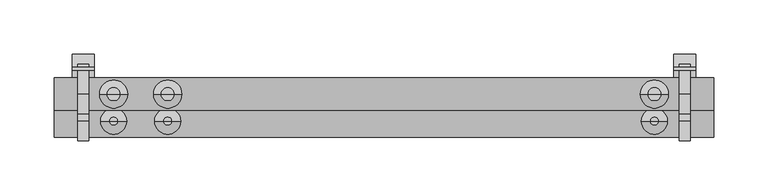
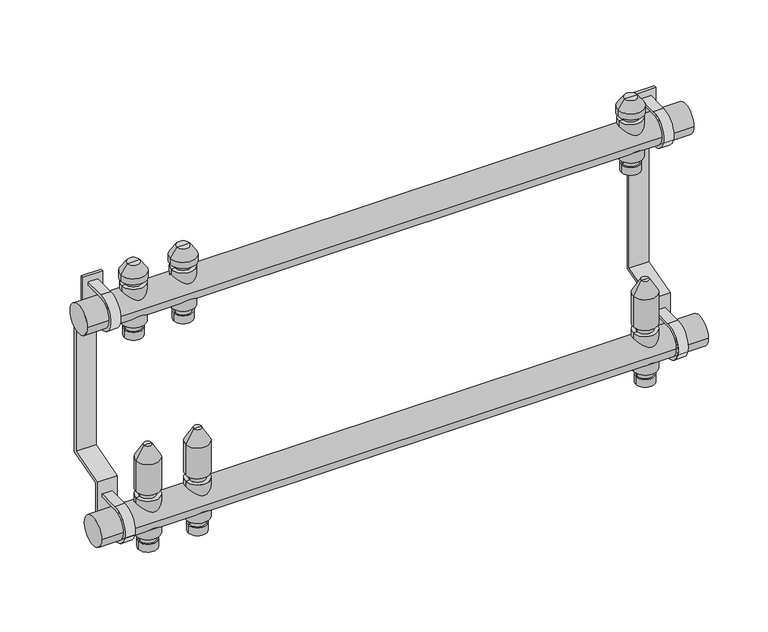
"""IFC4 building model written with IfcOpenShell, lengths in millimetres: valve geometry, PL CZ_Manifold_FT-VA : 11 circuits."""

from ifc_helpers import new_model, si_unit, point, frame, frame_2d, origin, origin_2d, place, context, project, spatial, polyline, circle_curve, trimmed, segment, composite_curve, outline, extrude, source, transform, mapped, element, save
from ifc_brep_helpers import plane_surface, cylinder_surface, revolved_surface, advanced_brep


def valve_5ebee82e(model_context):
    return source(origin(), model_context, "Body", "SolidModel", [
        advanced_brep(
        [(78.5, 0.0, -35.11267), (97.5, 0.0, -35.11267), (88.0, 0.0, -35.11267), (78.5, 0.0, -27.0369646), (97.5, 0.0, -27.0369646), (80.0, 0.0, -27.0369646), (96.0, 0.0, -27.0369646), (80.0, 0.0, -20.330253), (96.0, 0.0, -20.330253), (76.0, 0.0, -20.330253), (100.0, 0.0, -20.330253), (76.0, 0.0, 20.330253), (100.0, 0.0, 20.330253), (80.0, 0.0, 20.330253), (96.0, 0.0, 20.330253), (80.0, 0.0, 27.0474786), (96.0, 0.0, 27.0474786), (76.0, 0.0, 27.0474786), (100.0, 0.0, 27.0474786), (76.0, 0.0, 59.4084325), (100.0, 0.0, 59.4084325), (84.0, 0.0, 73.264839), (92.0, 0.0, 73.264839), (88.0, 0.0, 73.264839)],
        [
            (0, 1, circle_curve(frame((88.0, 0.0, -35.11267), z_axis=(0.0, 0.0, -1.0), x_axis=(1.0, 0.0, 0.0)), 9.5)),
            (1, 2),
            (2, 0),
            (1, 0, circle_curve(frame((88.0, 0.0, -35.11267), z_axis=(0.0, 0.0, -1.0), x_axis=(1.0, 0.0, 0.0)), 9.5)),
            (3, 4, circle_curve(frame((88.0, 0.0, -27.0369646), z_axis=(0.0, 0.0, -1.0), x_axis=(1.0, 0.0, 0.0)), 9.5)),
            (4, 1),
            (0, 3),
            (4, 3, circle_curve(frame((88.0, 0.0, -27.0369646), z_axis=(0.0, 0.0, -1.0), x_axis=(1.0, 0.0, 0.0)), 9.5)),
            (5, 6, circle_curve(frame((88.0, 0.0, -27.0369646), z_axis=(0.0, 0.0, -1.0), x_axis=(1.0, 0.0, 0.0)), 8.0)),
            (6, 4),
            (3, 5),
            (6, 5, circle_curve(frame((88.0, 0.0, -27.0369646), z_axis=(0.0, 0.0, -1.0), x_axis=(1.0, 0.0, 0.0)), 8.0)),
            (7, 8, circle_curve(frame((88.0, 0.0, -20.330253), z_axis=(0.0, 0.0, -1.0), x_axis=(1.0, 0.0, 0.0)), 8.0)),
            (8, 6),
            (5, 7),
            (8, 7, circle_curve(frame((88.0, 0.0, -20.330253), z_axis=(0.0, 0.0, -1.0), x_axis=(1.0, 0.0, 0.0)), 8.0)),
            (9, 10, circle_curve(frame((88.0, 0.0, -20.330253), z_axis=(0.0, 0.0, -1.0), x_axis=(1.0, 0.0, 0.0)), 12.0)),
            (10, 8),
            (7, 9),
            (10, 9, circle_curve(frame((88.0, 0.0, -20.330253), z_axis=(0.0, 0.0, -1.0), x_axis=(1.0, 0.0, 0.0)), 12.0)),
            (11, 12, circle_curve(frame((88.0, 0.0, 20.330253), z_axis=(0.0, 0.0, -1.0), x_axis=(1.0, 0.0, 0.0)), 12.0)),
            (12, 10),
            (9, 11),
            (12, 11, circle_curve(frame((88.0, 0.0, 20.330253), z_axis=(0.0, 0.0, -1.0), x_axis=(1.0, 0.0, 0.0)), 12.0)),
            (13, 14, circle_curve(frame((88.0, 0.0, 20.330253), z_axis=(0.0, 0.0, -1.0), x_axis=(1.0, 0.0, 0.0)), 8.0)),
            (14, 12),
            (11, 13),
            (14, 13, circle_curve(frame((88.0, 0.0, 20.330253), z_axis=(0.0, 0.0, -1.0), x_axis=(1.0, 0.0, 0.0)), 8.0)),
            (15, 16, circle_curve(frame((88.0, 0.0, 27.0474786), z_axis=(0.0, 0.0, -1.0), x_axis=(1.0, 0.0, 0.0)), 8.0)),
            (16, 14),
            (13, 15),
            (16, 15, circle_curve(frame((88.0, 0.0, 27.0474786), z_axis=(0.0, 0.0, -1.0), x_axis=(1.0, 0.0, 0.0)), 8.0)),
            (17, 18, circle_curve(frame((88.0, 0.0, 27.0474786), z_axis=(0.0, 0.0, -1.0), x_axis=(1.0, 0.0, 0.0)), 12.0)),
            (18, 16),
            (15, 17),
            (18, 17, circle_curve(frame((88.0, 0.0, 27.0474786), z_axis=(0.0, 0.0, -1.0), x_axis=(1.0, 0.0, 0.0)), 12.0)),
            (19, 20, circle_curve(frame((88.0, 0.0, 59.4084325), z_axis=(0.0, 0.0, -1.0), x_axis=(1.0, 0.0, 0.0)), 12.0)),
            (20, 18),
            (17, 19),
            (20, 19, circle_curve(frame((88.0, 0.0, 59.4084325), z_axis=(0.0, 0.0, -1.0), x_axis=(1.0, 0.0, 0.0)), 12.0)),
            (21, 22, circle_curve(frame((88.0, 0.0, 73.264839), z_axis=(0.0, 0.0, -1.0), x_axis=(1.0, 0.0, 0.0)), 4.0)),
            (22, 20),
            (19, 21),
            (22, 21, circle_curve(frame((88.0, 0.0, 73.264839), z_axis=(0.0, 0.0, -1.0), x_axis=(1.0, 0.0, 0.0)), 4.0)),
            (23, 22),
            (21, 23),
        ],
        [
            plane_surface(frame((88.0, 0.0, -35.11267), z_axis=(0.0, 0.0, -1.0), x_axis=(1.0, 0.0, 0.0))),
            cylinder_surface(frame((88.0, 0.0, 58.264839), z_axis=(0.0, 0.0, 1.0), x_axis=(1.0, 0.0, 0.0)), 9.5),
            plane_surface(frame((88.0, 0.0, -27.0369646), z_axis=(0.0, 0.0, 1.0), x_axis=(1.0, 0.0, 0.0))),
            cylinder_surface(frame((88.0, 0.0, 58.264839), z_axis=(0.0, 0.0, 1.0), x_axis=(1.0, 0.0, 0.0)), 8.0),
            plane_surface(frame((88.0, 0.0, -20.330253), z_axis=(0.0, 0.0, -1.0), x_axis=(1.0, 0.0, 0.0))),
            cylinder_surface(frame((88.0, 0.0, 58.264839), z_axis=(0.0, 0.0, 1.0), x_axis=(1.0, 0.0, 0.0)), 12.0),
            plane_surface(frame((88.0, 0.0, 20.330253), z_axis=(0.0, 0.0, 1.0), x_axis=(1.0, 0.0, 0.0))),
            plane_surface(frame((88.0, 0.0, 27.0474786), z_axis=(0.0, 0.0, -1.0), x_axis=(1.0, 0.0, 0.0))),
            revolved_surface(polyline([(100.0, 0.0, 59.4084325), (92.0, 0.0, 73.264839)]), (88.0, 0.0, 58.264839), (0.0, 0.0, 1.0)),
            plane_surface(frame((88.0, 0.0, 73.264839), z_axis=(0.0, 0.0, 1.0), x_axis=(1.0, 0.0, 0.0))),
        ],
        [
            (0, [[1, 2, 3]]),
            (0, [[4, -3, -2]]),
            (1, [[5, 6, -1, 7]]),
            (1, [[8, -7, -4, -6]]),
            (2, [[9, 10, -5, 11]]),
            (2, [[12, -11, -8, -10]]),
            (3, [[13, 14, -9, 15]]),
            (3, [[16, -15, -12, -14]]),
            (4, [[17, 18, -13, 19]]),
            (4, [[20, -19, -16, -18]]),
            (5, [[21, 22, -17, 23]]),
            (5, [[24, -23, -20, -22]]),
            (6, [[25, 26, -21, 27]]),
            (6, [[28, -27, -24, -26]]),
            (3, [[29, 30, -25, 31]]),
            (3, [[32, -31, -28, -30]]),
            (7, [[33, 34, -29, 35]]),
            (7, [[36, -35, -32, -34]]),
            (5, [[37, 38, -33, 39]]),
            (5, [[40, -39, -36, -38]]),
            (8, [[41, 42, -37, 43]]),
            (8, [[44, -43, -40, -42]]),
            (9, [[45, -41, 46]]),
            (9, [[-46, -44, -45]]),
        ],
    ),
        advanced_brep(
        [(78.5, 25.0, 174.88733), (97.5, 25.0, 174.88733), (88.0, 25.0, 174.88733), (78.5, 25.0, 182.9630354), (97.5, 25.0, 182.9630354), (80.0, 25.0, 182.9630354), (96.0, 25.0, 182.9630354), (80.0, 25.0, 189.669747), (96.0, 25.0, 189.669747), (76.0, 25.0, 189.669747), (100.0, 25.0, 189.669747), (76.0, 25.0, 230.330253), (100.0, 25.0, 230.330253), (80.0, 25.0, 230.330253), (96.0, 25.0, 230.330253), (80.0, 25.0, 236.0474786), (96.0, 25.0, 236.0474786), (75.0, 25.0, 236.0474786), (101.0, 25.0, 236.0474786), (75.0, 25.0, 242.337955), (101.0, 25.0, 242.337955), (81.6551779, 25.0, 251.842534), (94.3448221, 25.0, 251.842534), (88.0, 25.0, 251.842534)],
        [
            (0, 1, circle_curve(frame((88.0, 25.0, 174.88733), z_axis=(0.0, 0.0, -1.0), x_axis=(1.0, 0.0, 0.0)), 9.5)),
            (1, 2),
            (2, 0),
            (1, 0, circle_curve(frame((88.0, 25.0, 174.88733), z_axis=(0.0, 0.0, -1.0), x_axis=(1.0, 0.0, 0.0)), 9.5)),
            (3, 4, circle_curve(frame((88.0, 25.0, 182.9630354), z_axis=(0.0, 0.0, -1.0), x_axis=(1.0, 0.0, 0.0)), 9.5)),
            (4, 1),
            (0, 3),
            (4, 3, circle_curve(frame((88.0, 25.0, 182.9630354), z_axis=(0.0, 0.0, -1.0), x_axis=(1.0, 0.0, 0.0)), 9.5)),
            (5, 6, circle_curve(frame((88.0, 25.0, 182.9630354), z_axis=(0.0, 0.0, -1.0), x_axis=(1.0, 0.0, 0.0)), 8.0)),
            (6, 4),
            (3, 5),
            (6, 5, circle_curve(frame((88.0, 25.0, 182.9630354), z_axis=(0.0, 0.0, -1.0), x_axis=(1.0, 0.0, 0.0)), 8.0)),
            (7, 8, circle_curve(frame((88.0, 25.0, 189.669747), z_axis=(0.0, 0.0, -1.0), x_axis=(1.0, 0.0, 0.0)), 8.0)),
            (8, 6),
            (5, 7),
            (8, 7, circle_curve(frame((88.0, 25.0, 189.669747), z_axis=(0.0, 0.0, -1.0), x_axis=(1.0, 0.0, 0.0)), 8.0)),
            (9, 10, circle_curve(frame((88.0, 25.0, 189.669747), z_axis=(0.0, 0.0, -1.0), x_axis=(1.0, 0.0, 0.0)), 12.0)),
            (10, 8),
            (7, 9),
            (10, 9, circle_curve(frame((88.0, 25.0, 189.669747), z_axis=(0.0, 0.0, -1.0), x_axis=(1.0, 0.0, 0.0)), 12.0)),
            (11, 12, circle_curve(frame((88.0, 25.0, 230.330253), z_axis=(0.0, 0.0, -1.0), x_axis=(1.0, 0.0, 0.0)), 12.0)),
            (12, 10),
            (9, 11),
            (12, 11, circle_curve(frame((88.0, 25.0, 230.330253), z_axis=(0.0, 0.0, -1.0), x_axis=(1.0, 0.0, 0.0)), 12.0)),
            (13, 14, circle_curve(frame((88.0, 25.0, 230.330253), z_axis=(0.0, 0.0, -1.0), x_axis=(1.0, 0.0, 0.0)), 8.0)),
            (14, 12),
            (11, 13),
            (14, 13, circle_curve(frame((88.0, 25.0, 230.330253), z_axis=(0.0, 0.0, -1.0), x_axis=(1.0, 0.0, 0.0)), 8.0)),
            (15, 16, circle_curve(frame((88.0, 25.0, 236.0474786), z_axis=(0.0, 0.0, -1.0), x_axis=(1.0, 0.0, 0.0)), 8.0)),
            (16, 14),
            (13, 15),
            (16, 15, circle_curve(frame((88.0, 25.0, 236.0474786), z_axis=(0.0, 0.0, -1.0), x_axis=(1.0, 0.0, 0.0)), 8.0)),
            (17, 18, circle_curve(frame((88.0, 25.0, 236.0474786), z_axis=(0.0, 0.0, -1.0), x_axis=(1.0, 0.0, 0.0)), 13.0)),
            (18, 16),
            (15, 17),
            (18, 17, circle_curve(frame((88.0, 25.0, 236.0474786), z_axis=(0.0, 0.0, -1.0), x_axis=(1.0, 0.0, 0.0)), 13.0)),
            (19, 20, circle_curve(frame((88.0, 25.0, 242.337955), z_axis=(0.0, 0.0, -1.0), x_axis=(1.0, 0.0, 0.0)), 13.0)),
            (20, 18),
            (17, 19),
            (20, 19, circle_curve(frame((88.0, 25.0, 242.337955), z_axis=(0.0, 0.0, -1.0), x_axis=(1.0, 0.0, 0.0)), 13.0)),
            (21, 22, circle_curve(frame((88.0, 25.0, 251.842534), z_axis=(0.0, 0.0, -1.0), x_axis=(1.0, 0.0, 0.0)), 6.3448221)),
            (22, 20),
            (19, 21),
            (22, 21, circle_curve(frame((88.0, 25.0, 251.842534), z_axis=(0.0, 0.0, -1.0), x_axis=(1.0, 0.0, 0.0)), 6.3448221)),
            (23, 22),
            (21, 23),
        ],
        [
            plane_surface(frame((88.0, 25.0, 174.88733), z_axis=(0.0, 0.0, -1.0), x_axis=(1.0, 0.0, 0.0))),
            cylinder_surface(frame((88.0, 25.0, 247.7026565), z_axis=(0.0, 0.0, 1.0), x_axis=(1.0, 0.0, 0.0)), 9.5),
            plane_surface(frame((88.0, 25.0, 182.9630354), z_axis=(0.0, 0.0, 1.0), x_axis=(1.0, 0.0, 0.0))),
            cylinder_surface(frame((88.0, 25.0, 247.7026565), z_axis=(0.0, 0.0, 1.0), x_axis=(1.0, 0.0, 0.0)), 8.0),
            plane_surface(frame((88.0, 25.0, 189.669747), z_axis=(0.0, 0.0, -1.0), x_axis=(1.0, 0.0, 0.0))),
            cylinder_surface(frame((88.0, 25.0, 247.7026565), z_axis=(0.0, 0.0, 1.0), x_axis=(1.0, 0.0, 0.0)), 12.0),
            plane_surface(frame((88.0, 25.0, 230.330253), z_axis=(0.0, 0.0, 1.0), x_axis=(1.0, 0.0, 0.0))),
            plane_surface(frame((88.0, 25.0, 236.0474786), z_axis=(0.0, 0.0, -1.0), x_axis=(1.0, 0.0, 0.0))),
            cylinder_surface(frame((88.0, 25.0, 247.7026565), z_axis=(0.0, 0.0, 1.0), x_axis=(1.0, 0.0, 0.0)), 13.0),
            revolved_surface(polyline([(101.0, 25.0, 242.337955), (94.3448221, 25.0, 251.842534)]), (88.0, 25.0, 247.7026565), (0.0, 0.0, 1.0)),
            plane_surface(frame((88.0, 25.0, 251.842534), z_axis=(0.0, 0.0, 1.0), x_axis=(1.0, 0.0, 0.0))),
        ],
        [
            (0, [[1, 2, 3]]),
            (0, [[4, -3, -2]]),
            (1, [[5, 6, -1, 7]]),
            (1, [[8, -7, -4, -6]]),
            (2, [[9, 10, -5, 11]]),
            (2, [[12, -11, -8, -10]]),
            (3, [[13, 14, -9, 15]]),
            (3, [[16, -15, -12, -14]]),
            (4, [[17, 18, -13, 19]]),
            (4, [[20, -19, -16, -18]]),
            (5, [[21, 22, -17, 23]]),
            (5, [[24, -23, -20, -22]]),
            (6, [[25, 26, -21, 27]]),
            (6, [[28, -27, -24, -26]]),
            (3, [[29, 30, -25, 31]]),
            (3, [[32, -31, -28, -30]]),
            (7, [[33, 34, -29, 35]]),
            (7, [[36, -35, -32, -34]]),
            (8, [[37, 38, -33, 39]]),
            (8, [[40, -39, -36, -38]]),
            (9, [[41, 42, -37, 43]]),
            (9, [[44, -43, -40, -42]]),
            (10, [[45, -41, 46]]),
            (10, [[-46, -44, -45]]),
        ],
    ),
        advanced_brep(
        [(528.5, 0.0, -35.11267), (547.5, 0.0, -35.11267), (538.0, 0.0, -35.11267), (528.5, 0.0, -27.0369646), (547.5, 0.0, -27.0369646), (530.0, 0.0, -27.0369646), (546.0, 0.0, -27.0369646), (530.0, 0.0, -20.330253), (546.0, 0.0, -20.330253), (526.0, 0.0, -20.330253), (550.0, 0.0, -20.330253), (526.0, 0.0, 20.330253), (550.0, 0.0, 20.330253), (530.0, 0.0, 20.330253), (546.0, 0.0, 20.330253), (530.0, 0.0, 27.0474786), (546.0, 0.0, 27.0474786), (526.0, 0.0, 27.0474786), (550.0, 0.0, 27.0474786), (526.0, 0.0, 59.4084325), (550.0, 0.0, 59.4084325), (534.0, 0.0, 73.264839), (542.0, 0.0, 73.264839), (538.0, 0.0, 73.264839)],
        [
            (0, 1, circle_curve(frame((538.0, 0.0, -35.11267), z_axis=(0.0, 0.0, -1.0), x_axis=(1.0, 0.0, 0.0)), 9.5)),
            (1, 2),
            (2, 0),
            (1, 0, circle_curve(frame((538.0, 0.0, -35.11267), z_axis=(0.0, 0.0, -1.0), x_axis=(1.0, 0.0, 0.0)), 9.5)),
            (3, 4, circle_curve(frame((538.0, 0.0, -27.0369646), z_axis=(0.0, 0.0, -1.0), x_axis=(1.0, 0.0, 0.0)), 9.5)),
            (4, 1),
            (0, 3),
            (4, 3, circle_curve(frame((538.0, 0.0, -27.0369646), z_axis=(0.0, 0.0, -1.0), x_axis=(1.0, 0.0, 0.0)), 9.5)),
            (5, 6, circle_curve(frame((538.0, 0.0, -27.0369646), z_axis=(0.0, 0.0, -1.0), x_axis=(1.0, 0.0, 0.0)), 8.0)),
            (6, 4),
            (3, 5),
            (6, 5, circle_curve(frame((538.0, 0.0, -27.0369646), z_axis=(0.0, 0.0, -1.0), x_axis=(1.0, 0.0, 0.0)), 8.0)),
            (7, 8, circle_curve(frame((538.0, 0.0, -20.330253), z_axis=(0.0, 0.0, -1.0), x_axis=(1.0, 0.0, 0.0)), 8.0)),
            (8, 6),
            (5, 7),
            (8, 7, circle_curve(frame((538.0, 0.0, -20.330253), z_axis=(0.0, 0.0, -1.0), x_axis=(1.0, 0.0, 0.0)), 8.0)),
            (9, 10, circle_curve(frame((538.0, 0.0, -20.330253), z_axis=(0.0, 0.0, -1.0), x_axis=(1.0, 0.0, 0.0)), 12.0)),
            (10, 8),
            (7, 9),
            (10, 9, circle_curve(frame((538.0, 0.0, -20.330253), z_axis=(0.0, 0.0, -1.0), x_axis=(1.0, 0.0, 0.0)), 12.0)),
            (11, 12, circle_curve(frame((538.0, 0.0, 20.330253), z_axis=(0.0, 0.0, -1.0), x_axis=(1.0, 0.0, 0.0)), 12.0)),
            (12, 10),
            (9, 11),
            (12, 11, circle_curve(frame((538.0, 0.0, 20.330253), z_axis=(0.0, 0.0, -1.0), x_axis=(1.0, 0.0, 0.0)), 12.0)),
            (13, 14, circle_curve(frame((538.0, 0.0, 20.330253), z_axis=(0.0, 0.0, -1.0), x_axis=(1.0, 0.0, 0.0)), 8.0)),
            (14, 12),
            (11, 13),
            (14, 13, circle_curve(frame((538.0, 0.0, 20.330253), z_axis=(0.0, 0.0, -1.0), x_axis=(1.0, 0.0, 0.0)), 8.0)),
            (15, 16, circle_curve(frame((538.0, 0.0, 27.0474786), z_axis=(0.0, 0.0, -1.0), x_axis=(1.0, 0.0, 0.0)), 8.0)),
            (16, 14),
            (13, 15),
            (16, 15, circle_curve(frame((538.0, 0.0, 27.0474786), z_axis=(0.0, 0.0, -1.0), x_axis=(1.0, 0.0, 0.0)), 8.0)),
            (17, 18, circle_curve(frame((538.0, 0.0, 27.0474786), z_axis=(0.0, 0.0, -1.0), x_axis=(1.0, 0.0, 0.0)), 12.0)),
            (18, 16),
            (15, 17),
            (18, 17, circle_curve(frame((538.0, 0.0, 27.0474786), z_axis=(0.0, 0.0, -1.0), x_axis=(1.0, 0.0, 0.0)), 12.0)),
            (19, 20, circle_curve(frame((538.0, 0.0, 59.4084325), z_axis=(0.0, 0.0, -1.0), x_axis=(1.0, 0.0, 0.0)), 12.0)),
            (20, 18),
            (17, 19),
            (20, 19, circle_curve(frame((538.0, 0.0, 59.4084325), z_axis=(0.0, 0.0, -1.0), x_axis=(1.0, 0.0, 0.0)), 12.0)),
            (21, 22, circle_curve(frame((538.0, 0.0, 73.264839), z_axis=(0.0, 0.0, -1.0), x_axis=(1.0, 0.0, 0.0)), 4.0)),
            (22, 20),
            (19, 21),
            (22, 21, circle_curve(frame((538.0, 0.0, 73.264839), z_axis=(0.0, 0.0, -1.0), x_axis=(1.0, 0.0, 0.0)), 4.0)),
            (23, 22),
            (21, 23),
        ],
        [
            plane_surface(frame((538.0, 0.0, -35.11267), z_axis=(0.0, 0.0, -1.0), x_axis=(1.0, 0.0, 0.0))),
            cylinder_surface(frame((538.0, 0.0, 58.264839), z_axis=(0.0, 0.0, 1.0), x_axis=(1.0, 0.0, 0.0)), 9.5),
            plane_surface(frame((538.0, 0.0, -27.0369646), z_axis=(0.0, 0.0, 1.0), x_axis=(1.0, 0.0, 0.0))),
            cylinder_surface(frame((538.0, 0.0, 58.264839), z_axis=(0.0, 0.0, 1.0), x_axis=(1.0, 0.0, 0.0)), 8.0),
            plane_surface(frame((538.0, 0.0, -20.330253), z_axis=(0.0, 0.0, -1.0), x_axis=(1.0, 0.0, 0.0))),
            cylinder_surface(frame((538.0, 0.0, 58.264839), z_axis=(0.0, 0.0, 1.0), x_axis=(1.0, 0.0, 0.0)), 12.0),
            plane_surface(frame((538.0, 0.0, 20.330253), z_axis=(0.0, 0.0, 1.0), x_axis=(1.0, 0.0, 0.0))),
            plane_surface(frame((538.0, 0.0, 27.0474786), z_axis=(0.0, 0.0, -1.0), x_axis=(1.0, 0.0, 0.0))),
            revolved_surface(polyline([(550.0, 0.0, 59.4084325), (542.0, 0.0, 73.264839)]), (538.0, 0.0, 58.264839), (0.0, 0.0, 1.0)),
            plane_surface(frame((538.0, 0.0, 73.264839), z_axis=(0.0, 0.0, 1.0), x_axis=(1.0, 0.0, 0.0))),
        ],
        [
            (0, [[1, 2, 3]]),
            (0, [[4, -3, -2]]),
            (1, [[5, 6, -1, 7]]),
            (1, [[8, -7, -4, -6]]),
            (2, [[9, 10, -5, 11]]),
            (2, [[12, -11, -8, -10]]),
            (3, [[13, 14, -9, 15]]),
            (3, [[16, -15, -12, -14]]),
            (4, [[17, 18, -13, 19]]),
            (4, [[20, -19, -16, -18]]),
            (5, [[21, 22, -17, 23]]),
            (5, [[24, -23, -20, -22]]),
            (6, [[25, 26, -21, 27]]),
            (6, [[28, -27, -24, -26]]),
            (3, [[29, 30, -25, 31]]),
            (3, [[32, -31, -28, -30]]),
            (7, [[33, 34, -29, 35]]),
            (7, [[36, -35, -32, -34]]),
            (5, [[37, 38, -33, 39]]),
            (5, [[40, -39, -36, -38]]),
            (8, [[41, 42, -37, 43]]),
            (8, [[44, -43, -40, -42]]),
            (9, [[45, -41, 46]]),
            (9, [[-46, -44, -45]]),
        ],
    ),
        advanced_brep(
        [(528.5, 25.0, 174.88733), (547.5, 25.0, 174.88733), (538.0, 25.0, 174.88733), (528.5, 25.0, 182.9630354), (547.5, 25.0, 182.9630354), (530.0, 25.0, 182.9630354), (546.0, 25.0, 182.9630354), (530.0, 25.0, 189.669747), (546.0, 25.0, 189.669747), (526.0, 25.0, 189.669747), (550.0, 25.0, 189.669747), (526.0, 25.0, 230.330253), (550.0, 25.0, 230.330253), (530.0, 25.0, 230.330253), (546.0, 25.0, 230.330253), (530.0, 25.0, 236.0474786), (546.0, 25.0, 236.0474786), (525.0, 25.0, 236.0474786), (551.0, 25.0, 236.0474786), (525.0, 25.0, 242.337955), (551.0, 25.0, 242.337955), (531.6551779, 25.0, 251.842534), (544.3448221, 25.0, 251.842534), (538.0, 25.0, 251.842534)],
        [
            (0, 1, circle_curve(frame((538.0, 25.0, 174.88733), z_axis=(0.0, 0.0, -1.0), x_axis=(1.0, 0.0, 0.0)), 9.5)),
            (1, 2),
            (2, 0),
            (1, 0, circle_curve(frame((538.0, 25.0, 174.88733), z_axis=(0.0, 0.0, -1.0), x_axis=(1.0, 0.0, 0.0)), 9.5)),
            (3, 4, circle_curve(frame((538.0, 25.0, 182.9630354), z_axis=(0.0, 0.0, -1.0), x_axis=(1.0, 0.0, 0.0)), 9.5)),
            (4, 1),
            (0, 3),
            (4, 3, circle_curve(frame((538.0, 25.0, 182.9630354), z_axis=(0.0, 0.0, -1.0), x_axis=(1.0, 0.0, 0.0)), 9.5)),
            (5, 6, circle_curve(frame((538.0, 25.0, 182.9630354), z_axis=(0.0, 0.0, -1.0), x_axis=(1.0, 0.0, 0.0)), 8.0)),
            (6, 4),
            (3, 5),
            (6, 5, circle_curve(frame((538.0, 25.0, 182.9630354), z_axis=(0.0, 0.0, -1.0), x_axis=(1.0, 0.0, 0.0)), 8.0)),
            (7, 8, circle_curve(frame((538.0, 25.0, 189.669747), z_axis=(0.0, 0.0, -1.0), x_axis=(1.0, 0.0, 0.0)), 8.0)),
            (8, 6),
            (5, 7),
            (8, 7, circle_curve(frame((538.0, 25.0, 189.669747), z_axis=(0.0, 0.0, -1.0), x_axis=(1.0, 0.0, 0.0)), 8.0)),
            (9, 10, circle_curve(frame((538.0, 25.0, 189.669747), z_axis=(0.0, 0.0, -1.0), x_axis=(1.0, 0.0, 0.0)), 12.0)),
            (10, 8),
            (7, 9),
            (10, 9, circle_curve(frame((538.0, 25.0, 189.669747), z_axis=(0.0, 0.0, -1.0), x_axis=(1.0, 0.0, 0.0)), 12.0)),
            (11, 12, circle_curve(frame((538.0, 25.0, 230.330253), z_axis=(0.0, 0.0, -1.0), x_axis=(1.0, 0.0, 0.0)), 12.0)),
            (12, 10),
            (9, 11),
            (12, 11, circle_curve(frame((538.0, 25.0, 230.330253), z_axis=(0.0, 0.0, -1.0), x_axis=(1.0, 0.0, 0.0)), 12.0)),
            (13, 14, circle_curve(frame((538.0, 25.0, 230.330253), z_axis=(0.0, 0.0, -1.0), x_axis=(1.0, 0.0, 0.0)), 8.0)),
            (14, 12),
            (11, 13),
            (14, 13, circle_curve(frame((538.0, 25.0, 230.330253), z_axis=(0.0, 0.0, -1.0), x_axis=(1.0, 0.0, 0.0)), 8.0)),
            (15, 16, circle_curve(frame((538.0, 25.0, 236.0474786), z_axis=(0.0, 0.0, -1.0), x_axis=(1.0, 0.0, 0.0)), 8.0)),
            (16, 14),
            (13, 15),
            (16, 15, circle_curve(frame((538.0, 25.0, 236.0474786), z_axis=(0.0, 0.0, -1.0), x_axis=(1.0, 0.0, 0.0)), 8.0)),
            (17, 18, circle_curve(frame((538.0, 25.0, 236.0474786), z_axis=(0.0, 0.0, -1.0), x_axis=(1.0, 0.0, 0.0)), 13.0)),
            (18, 16),
            (15, 17),
            (18, 17, circle_curve(frame((538.0, 25.0, 236.0474786), z_axis=(0.0, 0.0, -1.0), x_axis=(1.0, 0.0, 0.0)), 13.0)),
            (19, 20, circle_curve(frame((538.0, 25.0, 242.337955), z_axis=(0.0, 0.0, -1.0), x_axis=(1.0, 0.0, 0.0)), 13.0)),
            (20, 18),
            (17, 19),
            (20, 19, circle_curve(frame((538.0, 25.0, 242.337955), z_axis=(0.0, 0.0, -1.0), x_axis=(1.0, 0.0, 0.0)), 13.0)),
            (21, 22, circle_curve(frame((538.0, 25.0, 251.842534), z_axis=(0.0, 0.0, -1.0), x_axis=(1.0, 0.0, 0.0)), 6.3448221)),
            (22, 20),
            (19, 21),
            (22, 21, circle_curve(frame((538.0, 25.0, 251.842534), z_axis=(0.0, 0.0, -1.0), x_axis=(1.0, 0.0, 0.0)), 6.3448221)),
            (23, 22),
            (21, 23),
        ],
        [
            plane_surface(frame((538.0, 25.0, 174.88733), z_axis=(0.0, 0.0, -1.0), x_axis=(1.0, 0.0, 0.0))),
            cylinder_surface(frame((538.0, 25.0, 247.7026565), z_axis=(0.0, 0.0, 1.0), x_axis=(1.0, 0.0, 0.0)), 9.5),
            plane_surface(frame((538.0, 25.0, 182.9630354), z_axis=(0.0, 0.0, 1.0), x_axis=(1.0, 0.0, 0.0))),
            cylinder_surface(frame((538.0, 25.0, 247.7026565), z_axis=(0.0, 0.0, 1.0), x_axis=(1.0, 0.0, 0.0)), 8.0),
            plane_surface(frame((538.0, 25.0, 189.669747), z_axis=(0.0, 0.0, -1.0), x_axis=(1.0, 0.0, 0.0))),
            cylinder_surface(frame((538.0, 25.0, 247.7026565), z_axis=(0.0, 0.0, 1.0), x_axis=(1.0, 0.0, 0.0)), 12.0),
            plane_surface(frame((538.0, 25.0, 230.330253), z_axis=(0.0, 0.0, 1.0), x_axis=(1.0, 0.0, 0.0))),
            plane_surface(frame((538.0, 25.0, 236.0474786), z_axis=(0.0, 0.0, -1.0), x_axis=(1.0, 0.0, 0.0))),
            cylinder_surface(frame((538.0, 25.0, 247.7026565), z_axis=(0.0, 0.0, 1.0), x_axis=(1.0, 0.0, 0.0)), 13.0),
            revolved_surface(polyline([(551.0, 25.0, 242.337955), (544.3448221, 25.0, 251.842534)]), (538.0, 25.0, 247.7026565), (0.0, 0.0, 1.0)),
            plane_surface(frame((538.0, 25.0, 251.842534), z_axis=(0.0, 0.0, 1.0), x_axis=(1.0, 0.0, 0.0))),
        ],
        [
            (0, [[1, 2, 3]]),
            (0, [[4, -3, -2]]),
            (1, [[5, 6, -1, 7]]),
            (1, [[8, -7, -4, -6]]),
            (2, [[9, 10, -5, 11]]),
            (2, [[12, -11, -8, -10]]),
            (3, [[13, 14, -9, 15]]),
            (3, [[16, -15, -12, -14]]),
            (4, [[17, 18, -13, 19]]),
            (4, [[20, -19, -16, -18]]),
            (5, [[21, 22, -17, 23]]),
            (5, [[24, -23, -20, -22]]),
            (6, [[25, 26, -21, 27]]),
            (6, [[28, -27, -24, -26]]),
            (3, [[29, 30, -25, 31]]),
            (3, [[32, -31, -28, -30]]),
            (7, [[33, 34, -29, 35]]),
            (7, [[36, -35, -32, -34]]),
            (8, [[37, 38, -33, 39]]),
            (8, [[40, -39, -36, -38]]),
            (9, [[41, 42, -37, 43]]),
            (9, [[44, -43, -40, -42]]),
            (10, [[45, -41, 46]]),
            (10, [[-46, -44, -45]]),
        ],
    ),
        advanced_brep(
        [(28.5, 25.0, 174.88733), (47.5, 25.0, 174.88733), (38.0, 25.0, 174.88733), (28.5, 25.0, 182.9630354), (47.5, 25.0, 182.9630354), (30.0, 25.0, 182.9630354), (46.0, 25.0, 182.9630354), (30.0, 25.0, 189.669747), (46.0, 25.0, 189.669747), (26.0, 25.0, 189.669747), (50.0, 25.0, 189.669747), (26.0, 25.0, 230.330253), (50.0, 25.0, 230.330253), (30.0, 25.0, 230.330253), (46.0, 25.0, 230.330253), (30.0, 25.0, 236.0474786), (46.0, 25.0, 236.0474786), (25.0, 25.0, 236.0474786), (51.0, 25.0, 236.0474786), (25.0, 25.0, 242.337955), (51.0, 25.0, 242.337955), (31.6551779, 25.0, 251.842534), (44.3448221, 25.0, 251.842534), (38.0, 25.0, 251.842534)],
        [
            (0, 1, circle_curve(frame((38.0, 25.0, 174.88733), z_axis=(0.0, 0.0, -1.0), x_axis=(1.0, 0.0, 0.0)), 9.5)),
            (1, 2),
            (2, 0),
            (1, 0, circle_curve(frame((38.0, 25.0, 174.88733), z_axis=(0.0, 0.0, -1.0), x_axis=(1.0, 0.0, 0.0)), 9.5)),
            (3, 4, circle_curve(frame((38.0, 25.0, 182.9630354), z_axis=(0.0, 0.0, -1.0), x_axis=(1.0, 0.0, 0.0)), 9.5)),
            (4, 1),
            (0, 3),
            (4, 3, circle_curve(frame((38.0, 25.0, 182.9630354), z_axis=(0.0, 0.0, -1.0), x_axis=(1.0, 0.0, 0.0)), 9.5)),
            (5, 6, circle_curve(frame((38.0, 25.0, 182.9630354), z_axis=(0.0, 0.0, -1.0), x_axis=(1.0, 0.0, 0.0)), 8.0)),
            (6, 4),
            (3, 5),
            (6, 5, circle_curve(frame((38.0, 25.0, 182.9630354), z_axis=(0.0, 0.0, -1.0), x_axis=(1.0, 0.0, 0.0)), 8.0)),
            (7, 8, circle_curve(frame((38.0, 25.0, 189.669747), z_axis=(0.0, 0.0, -1.0), x_axis=(1.0, 0.0, 0.0)), 8.0)),
            (8, 6),
            (5, 7),
            (8, 7, circle_curve(frame((38.0, 25.0, 189.669747), z_axis=(0.0, 0.0, -1.0), x_axis=(1.0, 0.0, 0.0)), 8.0)),
            (9, 10, circle_curve(frame((38.0, 25.0, 189.669747), z_axis=(0.0, 0.0, -1.0), x_axis=(1.0, 0.0, 0.0)), 12.0)),
            (10, 8),
            (7, 9),
            (10, 9, circle_curve(frame((38.0, 25.0, 189.669747), z_axis=(0.0, 0.0, -1.0), x_axis=(1.0, 0.0, 0.0)), 12.0)),
            (11, 12, circle_curve(frame((38.0, 25.0, 230.330253), z_axis=(0.0, 0.0, -1.0), x_axis=(1.0, 0.0, 0.0)), 12.0)),
            (12, 10),
            (9, 11),
            (12, 11, circle_curve(frame((38.0, 25.0, 230.330253), z_axis=(0.0, 0.0, -1.0), x_axis=(1.0, 0.0, 0.0)), 12.0)),
            (13, 14, circle_curve(frame((38.0, 25.0, 230.330253), z_axis=(0.0, 0.0, -1.0), x_axis=(1.0, 0.0, 0.0)), 8.0)),
            (14, 12),
            (11, 13),
            (14, 13, circle_curve(frame((38.0, 25.0, 230.330253), z_axis=(0.0, 0.0, -1.0), x_axis=(1.0, 0.0, 0.0)), 8.0)),
            (15, 16, circle_curve(frame((38.0, 25.0, 236.0474786), z_axis=(0.0, 0.0, -1.0), x_axis=(1.0, 0.0, 0.0)), 8.0)),
            (16, 14),
            (13, 15),
            (16, 15, circle_curve(frame((38.0, 25.0, 236.0474786), z_axis=(0.0, 0.0, -1.0), x_axis=(1.0, 0.0, 0.0)), 8.0)),
            (17, 18, circle_curve(frame((38.0, 25.0, 236.0474786), z_axis=(0.0, 0.0, -1.0), x_axis=(1.0, 0.0, 0.0)), 13.0)),
            (18, 16),
            (15, 17),
            (18, 17, circle_curve(frame((38.0, 25.0, 236.0474786), z_axis=(0.0, 0.0, -1.0), x_axis=(1.0, 0.0, 0.0)), 13.0)),
            (19, 20, circle_curve(frame((38.0, 25.0, 242.337955), z_axis=(0.0, 0.0, -1.0), x_axis=(1.0, 0.0, 0.0)), 13.0)),
            (20, 18),
            (17, 19),
            (20, 19, circle_curve(frame((38.0, 25.0, 242.337955), z_axis=(0.0, 0.0, -1.0), x_axis=(1.0, 0.0, 0.0)), 13.0)),
            (21, 22, circle_curve(frame((38.0, 25.0, 251.842534), z_axis=(0.0, 0.0, -1.0), x_axis=(1.0, 0.0, 0.0)), 6.3448221)),
            (22, 20),
            (19, 21),
            (22, 21, circle_curve(frame((38.0, 25.0, 251.842534), z_axis=(0.0, 0.0, -1.0), x_axis=(1.0, 0.0, 0.0)), 6.3448221)),
            (23, 22),
            (21, 23),
        ],
        [
            plane_surface(frame((38.0, 25.0, 174.88733), z_axis=(0.0, 0.0, -1.0), x_axis=(1.0, 0.0, 0.0))),
            cylinder_surface(frame((38.0, 25.0, 247.7026565), z_axis=(0.0, 0.0, 1.0), x_axis=(1.0, 0.0, 0.0)), 9.5),
            plane_surface(frame((38.0, 25.0, 182.9630354), z_axis=(0.0, 0.0, 1.0), x_axis=(1.0, 0.0, 0.0))),
            cylinder_surface(frame((38.0, 25.0, 247.7026565), z_axis=(0.0, 0.0, 1.0), x_axis=(1.0, 0.0, 0.0)), 8.0),
            plane_surface(frame((38.0, 25.0, 189.669747), z_axis=(0.0, 0.0, -1.0), x_axis=(1.0, 0.0, 0.0))),
            cylinder_surface(frame((38.0, 25.0, 247.7026565), z_axis=(0.0, 0.0, 1.0), x_axis=(1.0, 0.0, 0.0)), 12.0),
            plane_surface(frame((38.0, 25.0, 230.330253), z_axis=(0.0, 0.0, 1.0), x_axis=(1.0, 0.0, 0.0))),
            plane_surface(frame((38.0, 25.0, 236.0474786), z_axis=(0.0, 0.0, -1.0), x_axis=(1.0, 0.0, 0.0))),
            cylinder_surface(frame((38.0, 25.0, 247.7026565), z_axis=(0.0, 0.0, 1.0), x_axis=(1.0, 0.0, 0.0)), 13.0),
            revolved_surface(polyline([(51.0, 25.0, 242.337955), (44.3448221, 25.0, 251.842534)]), (38.0, 25.0, 247.7026565), (0.0, 0.0, 1.0)),
            plane_surface(frame((38.0, 25.0, 251.842534), z_axis=(0.0, 0.0, 1.0), x_axis=(1.0, 0.0, 0.0))),
        ],
        [
            (0, [[1, 2, 3]]),
            (0, [[4, -3, -2]]),
            (1, [[5, 6, -1, 7]]),
            (1, [[8, -7, -4, -6]]),
            (2, [[9, 10, -5, 11]]),
            (2, [[12, -11, -8, -10]]),
            (3, [[13, 14, -9, 15]]),
            (3, [[16, -15, -12, -14]]),
            (4, [[17, 18, -13, 19]]),
            (4, [[20, -19, -16, -18]]),
            (5, [[21, 22, -17, 23]]),
            (5, [[24, -23, -20, -22]]),
            (6, [[25, 26, -21, 27]]),
            (6, [[28, -27, -24, -26]]),
            (3, [[29, 30, -25, 31]]),
            (3, [[32, -31, -28, -30]]),
            (7, [[33, 34, -29, 35]]),
            (7, [[36, -35, -32, -34]]),
            (8, [[37, 38, -33, 39]]),
            (8, [[40, -39, -36, -38]]),
            (9, [[41, 42, -37, 43]]),
            (9, [[44, -43, -40, -42]]),
            (10, [[45, -41, 46]]),
            (10, [[-46, -44, -45]]),
        ],
    ),
        advanced_brep(
        [(28.5, 0.0, -35.11267), (47.5, 0.0, -35.11267), (38.0, 0.0, -35.11267), (28.5, 0.0, -27.0369646), (47.5, 0.0, -27.0369646), (30.0, 0.0, -27.0369646), (46.0, 0.0, -27.0369646), (30.0, 0.0, -20.330253), (46.0, 0.0, -20.330253), (26.0, 0.0, -20.330253), (50.0, 0.0, -20.330253), (26.0, 0.0, 20.330253), (50.0, 0.0, 20.330253), (30.0, 0.0, 20.330253), (46.0, 0.0, 20.330253), (30.0, 0.0, 27.0474786), (46.0, 0.0, 27.0474786), (26.0, 0.0, 27.0474786), (50.0, 0.0, 27.0474786), (26.0, 0.0, 59.4084325), (50.0, 0.0, 59.4084325), (34.0, 0.0, 73.264839), (42.0, 0.0, 73.264839), (38.0, 0.0, 73.264839)],
        [
            (0, 1, circle_curve(frame((38.0, 0.0, -35.11267), z_axis=(0.0, 0.0, -1.0), x_axis=(1.0, 0.0, 0.0)), 9.5)),
            (1, 2),
            (2, 0),
            (1, 0, circle_curve(frame((38.0, 0.0, -35.11267), z_axis=(0.0, 0.0, -1.0), x_axis=(1.0, 0.0, 0.0)), 9.5)),
            (3, 4, circle_curve(frame((38.0, 0.0, -27.0369646), z_axis=(0.0, 0.0, -1.0), x_axis=(1.0, 0.0, 0.0)), 9.5)),
            (4, 1),
            (0, 3),
            (4, 3, circle_curve(frame((38.0, 0.0, -27.0369646), z_axis=(0.0, 0.0, -1.0), x_axis=(1.0, 0.0, 0.0)), 9.5)),
            (5, 6, circle_curve(frame((38.0, 0.0, -27.0369646), z_axis=(0.0, 0.0, -1.0), x_axis=(1.0, 0.0, 0.0)), 8.0)),
            (6, 4),
            (3, 5),
            (6, 5, circle_curve(frame((38.0, 0.0, -27.0369646), z_axis=(0.0, 0.0, -1.0), x_axis=(1.0, 0.0, 0.0)), 8.0)),
            (7, 8, circle_curve(frame((38.0, 0.0, -20.330253), z_axis=(0.0, 0.0, -1.0), x_axis=(1.0, 0.0, 0.0)), 8.0)),
            (8, 6),
            (5, 7),
            (8, 7, circle_curve(frame((38.0, 0.0, -20.330253), z_axis=(0.0, 0.0, -1.0), x_axis=(1.0, 0.0, 0.0)), 8.0)),
            (9, 10, circle_curve(frame((38.0, 0.0, -20.330253), z_axis=(0.0, 0.0, -1.0), x_axis=(1.0, 0.0, 0.0)), 12.0)),
            (10, 8),
            (7, 9),
            (10, 9, circle_curve(frame((38.0, 0.0, -20.330253), z_axis=(0.0, 0.0, -1.0), x_axis=(1.0, 0.0, 0.0)), 12.0)),
            (11, 12, circle_curve(frame((38.0, 0.0, 20.330253), z_axis=(0.0, 0.0, -1.0), x_axis=(1.0, 0.0, 0.0)), 12.0)),
            (12, 10),
            (9, 11),
            (12, 11, circle_curve(frame((38.0, 0.0, 20.330253), z_axis=(0.0, 0.0, -1.0), x_axis=(1.0, 0.0, 0.0)), 12.0)),
            (13, 14, circle_curve(frame((38.0, 0.0, 20.330253), z_axis=(0.0, 0.0, -1.0), x_axis=(1.0, 0.0, 0.0)), 8.0)),
            (14, 12),
            (11, 13),
            (14, 13, circle_curve(frame((38.0, 0.0, 20.330253), z_axis=(0.0, 0.0, -1.0), x_axis=(1.0, 0.0, 0.0)), 8.0)),
            (15, 16, circle_curve(frame((38.0, 0.0, 27.0474786), z_axis=(0.0, 0.0, -1.0), x_axis=(1.0, 0.0, 0.0)), 8.0)),
            (16, 14),
            (13, 15),
            (16, 15, circle_curve(frame((38.0, 0.0, 27.0474786), z_axis=(0.0, 0.0, -1.0), x_axis=(1.0, 0.0, 0.0)), 8.0)),
            (17, 18, circle_curve(frame((38.0, 0.0, 27.0474786), z_axis=(0.0, 0.0, -1.0), x_axis=(1.0, 0.0, 0.0)), 12.0)),
            (18, 16),
            (15, 17),
            (18, 17, circle_curve(frame((38.0, 0.0, 27.0474786), z_axis=(0.0, 0.0, -1.0), x_axis=(1.0, 0.0, 0.0)), 12.0)),
            (19, 20, circle_curve(frame((38.0, 0.0, 59.4084325), z_axis=(0.0, 0.0, -1.0), x_axis=(1.0, 0.0, 0.0)), 12.0)),
            (20, 18),
            (17, 19),
            (20, 19, circle_curve(frame((38.0, 0.0, 59.4084325), z_axis=(0.0, 0.0, -1.0), x_axis=(1.0, 0.0, 0.0)), 12.0)),
            (21, 22, circle_curve(frame((38.0, 0.0, 73.264839), z_axis=(0.0, 0.0, -1.0), x_axis=(1.0, 0.0, 0.0)), 4.0)),
            (22, 20),
            (19, 21),
            (22, 21, circle_curve(frame((38.0, 0.0, 73.264839), z_axis=(0.0, 0.0, -1.0), x_axis=(1.0, 0.0, 0.0)), 4.0)),
            (23, 22),
            (21, 23),
        ],
        [
            plane_surface(frame((38.0, 0.0, -35.11267), z_axis=(0.0, 0.0, -1.0), x_axis=(1.0, 0.0, 0.0))),
            cylinder_surface(frame((38.0, 0.0, 58.264839), z_axis=(0.0, 0.0, 1.0), x_axis=(1.0, 0.0, 0.0)), 9.5),
            plane_surface(frame((38.0, 0.0, -27.0369646), z_axis=(0.0, 0.0, 1.0), x_axis=(1.0, 0.0, 0.0))),
            cylinder_surface(frame((38.0, 0.0, 58.264839), z_axis=(0.0, 0.0, 1.0), x_axis=(1.0, 0.0, 0.0)), 8.0),
            plane_surface(frame((38.0, 0.0, -20.330253), z_axis=(0.0, 0.0, -1.0), x_axis=(1.0, 0.0, 0.0))),
            cylinder_surface(frame((38.0, 0.0, 58.264839), z_axis=(0.0, 0.0, 1.0), x_axis=(1.0, 0.0, 0.0)), 12.0),
            plane_surface(frame((38.0, 0.0, 20.330253), z_axis=(0.0, 0.0, 1.0), x_axis=(1.0, 0.0, 0.0))),
            plane_surface(frame((38.0, 0.0, 27.0474786), z_axis=(0.0, 0.0, -1.0), x_axis=(1.0, 0.0, 0.0))),
            revolved_surface(polyline([(50.0, 0.0, 59.4084325), (42.0, 0.0, 73.264839)]), (38.0, 0.0, 58.264839), (0.0, 0.0, 1.0)),
            plane_surface(frame((38.0, 0.0, 73.264839), z_axis=(0.0, 0.0, 1.0), x_axis=(1.0, 0.0, 0.0))),
        ],
        [
            (0, [[1, 2, 3]]),
            (0, [[4, -3, -2]]),
            (1, [[5, 6, -1, 7]]),
            (1, [[8, -7, -4, -6]]),
            (2, [[9, 10, -5, 11]]),
            (2, [[12, -11, -8, -10]]),
            (3, [[13, 14, -9, 15]]),
            (3, [[16, -15, -12, -14]]),
            (4, [[17, 18, -13, 19]]),
            (4, [[20, -19, -16, -18]]),
            (5, [[21, 22, -17, 23]]),
            (5, [[24, -23, -20, -22]]),
            (6, [[25, 26, -21, 27]]),
            (6, [[28, -27, -24, -26]]),
            (3, [[29, 30, -25, 31]]),
            (3, [[32, -31, -28, -30]]),
            (7, [[33, 34, -29, 35]]),
            (7, [[36, -35, -32, -34]]),
            (5, [[37, 38, -33, 39]]),
            (5, [[40, -39, -36, -38]]),
            (8, [[41, 42, -37, 43]]),
            (8, [[44, -43, -40, -42]]),
            (9, [[45, -41, 46]]),
            (9, [[-46, -44, -45]]),
        ],
    ),
        extrude(outline(composite_curve([segment(trimmed(circle_curve(origin_2d(), 15.0), [point((0.0, 15.0))], [point((0.0, -15.0))], True, "CARTESIAN"), True, "CONTINUOUS"), segment(polyline([(0.0, -15.0), (27.6751284, -15.0), (27.6751284, -18.0), (0.0, -18.0)]), True, "CONTINUOUS"), segment(trimmed(circle_curve(origin_2d(), 18.0), [point((0.0, -18.0))], [point((0.0, 18.0))], False, "CARTESIAN"), True, "CONTINUOUS"), segment(polyline([(0.0, 18.0), (27.6751284, 18.0), (27.6751284, 15.0), (0.0, 15.0)]), True, "CONTINUOUS")], self_intersect=False)), frame((561.0, 0.0, 0.0), z_axis=(1.0, 0.0, 0.0), x_axis=(0.0, 1.0, 0.0)), (0.0, 0.0, 1.0), 10.0),
        extrude(outline(composite_curve([segment(trimmed(circle_curve(frame_2d((25.0, 210.0)), 15.0), [point((25.0, 225.0))], [point((25.0, 195.0))], True, "CARTESIAN"), True, "CONTINUOUS"), segment(polyline([(25.0, 195.0), (52.6751284, 195.0), (52.6751284, 192.0), (25.0, 192.0)]), True, "CONTINUOUS"), segment(trimmed(circle_curve(frame_2d((25.0, 210.0)), 18.0), [point((25.0, 192.0))], [point((25.0, 228.0))], False, "CARTESIAN"), True, "CONTINUOUS"), segment(polyline([(25.0, 228.0), (52.6751284, 228.0), (52.6751284, 225.0), (25.0, 225.0)]), True, "CONTINUOUS")], self_intersect=False)), frame((561.0, 0.0, 0.0), z_axis=(1.0, 0.0, 0.0), x_axis=(0.0, 1.0, 0.0)), (0.0, 0.0, 1.0), 10.0),
        extrude(outline(polyline([(62.0, 182.8840762), (62.0, 40.6095793), (25.0, 30.0), (25.0, -30.0), (22.0, -30.0), (22.0, 32.2606622), (59.0, 42.8702414), (59.0, 180.3667773), (47.0, 182.4827011), (47.0, 235.0), (50.0, 235.0), (50.0, 185.0), (62.0, 182.8840762)])), frame((556.0, 0.0, 0.0), z_axis=(1.0, 0.0, 0.0), x_axis=(0.0, 1.0, 0.0)), (0.0, 0.0, 1.0), 20.0),
        extrude(outline(composite_curve([segment(trimmed(circle_curve(origin_2d(), 15.0), [point((0.0, 15.0))], [point((0.0, -15.0))], True, "CARTESIAN"), True, "CONTINUOUS"), segment(polyline([(0.0, -15.0), (27.6751284, -15.0), (27.6751284, -18.0), (0.0, -18.0)]), True, "CONTINUOUS"), segment(trimmed(circle_curve(origin_2d(), 18.0), [point((0.0, -18.0))], [point((0.0, 18.0))], False, "CARTESIAN"), True, "CONTINUOUS"), segment(polyline([(0.0, 18.0), (27.6751284, 18.0), (27.6751284, 15.0), (0.0, 15.0)]), True, "CONTINUOUS")], self_intersect=False)), frame((5.0, 0.0, 0.0), z_axis=(1.0, 0.0, 0.0), x_axis=(0.0, 1.0, 0.0)), (0.0, 0.0, 1.0), 10.0),
        extrude(outline(composite_curve([segment(trimmed(circle_curve(frame_2d((25.0, 210.0)), 15.0), [point((25.0, 225.0))], [point((25.0, 195.0))], True, "CARTESIAN"), True, "CONTINUOUS"), segment(polyline([(25.0, 195.0), (52.6751284, 195.0), (52.6751284, 192.0), (25.0, 192.0)]), True, "CONTINUOUS"), segment(trimmed(circle_curve(frame_2d((25.0, 210.0)), 18.0), [point((25.0, 192.0))], [point((25.0, 228.0))], False, "CARTESIAN"), True, "CONTINUOUS"), segment(polyline([(25.0, 228.0), (52.6751284, 228.0), (52.6751284, 225.0), (25.0, 225.0)]), True, "CONTINUOUS")], self_intersect=False)), frame((5.0, 0.0, 0.0), z_axis=(1.0, 0.0, 0.0), x_axis=(0.0, 1.0, 0.0)), (0.0, 0.0, 1.0), 10.0),
        extrude(outline(polyline([(62.0, 182.8840762), (62.0, 40.6095793), (25.0, 30.0), (25.0, -30.0), (22.0, -30.0), (22.0, 32.2606622), (59.0, 42.8702414), (59.0, 180.3667773), (47.0, 182.4827011), (47.0, 235.0), (50.0, 235.0), (50.0, 185.0), (62.0, 182.8840762)])), frame((0.0, 0.0, 0.0), z_axis=(1.0, 0.0, 0.0), x_axis=(0.0, 1.0, 0.0)), (0.0, 0.0, 1.0), 20.0),
        extrude(outline(composite_curve([segment(trimmed(circle_curve(origin_2d(), 15.0), [point((15.0, 0.0))], [point((-15.0, 0.0))], False, "CARTESIAN"), True, "CONTINUOUS"), segment(trimmed(circle_curve(origin_2d(), 15.0), [point((-15.0, 0.0))], [point((15.0, 0.0))], False, "CARTESIAN"), True, "CONTINUOUS")], self_intersect=False)), frame((-17.0, 0.0, 0.0), z_axis=(1.0, 0.0, 0.0), x_axis=(0.0, 1.0, 0.0)), (0.0, 0.0, 1.0), 610.0),
        extrude(outline(composite_curve([segment(trimmed(circle_curve(frame_2d((25.0, 210.0)), 15.0), [point((40.0, 210.0))], [point((10.0, 210.0))], False, "CARTESIAN"), True, "CONTINUOUS"), segment(trimmed(circle_curve(frame_2d((25.0, 210.0)), 15.0), [point((10.0, 210.0))], [point((40.0, 210.0))], False, "CARTESIAN"), True, "CONTINUOUS")], self_intersect=False)), frame((-17.0, 0.0, 0.0), z_axis=(1.0, 0.0, 0.0), x_axis=(0.0, 1.0, 0.0)), (0.0, 0.0, 1.0), 610.0),
    ])


if __name__ == "__main__":
    model = new_model("IFC4")
    model_context = context("Model", 3, world=origin())
    ifc_project = project(units=[si_unit("LENGTHUNIT", "METRE", prefix="MILLI")], contexts=[model_context])
    site = spatial("IfcSite", under=ifc_project)
    building = spatial("IfcBuilding", under=site)
    placement = place(None, origin())
    valve_shape = valve_5ebee82e(model_context)
    element("IfcValve", 1, ObjectType="PL CZ_Manifold_FT-VA : 11 circuits", at=placement, inside=building, context=model_context, shape_type="MappedRepresentation", body=[
        mapped(valve_shape, transform((0.0, 0.0, 0.0), x_axis=(1.0, 0.0, 0.0), y_axis=(0.0, 1.0, 0.0), z_axis=(0.0, 0.0, 1.0))),
    ])
    save(model, "model.ifc")
